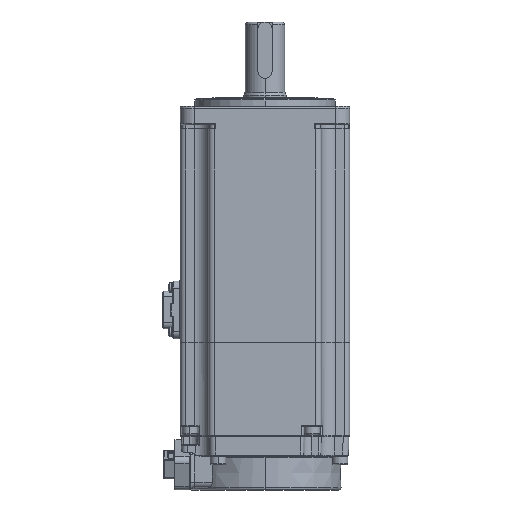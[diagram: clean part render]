
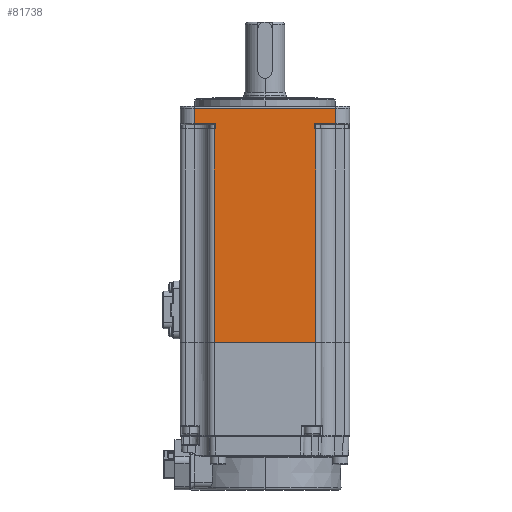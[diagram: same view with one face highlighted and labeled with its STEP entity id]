
A CAD part, left-side view. The second image highlights one B-rep face of the part: STEP entity #81738.
In plain terms, the highlighted planar face has unit normal (-1, 0, 0).
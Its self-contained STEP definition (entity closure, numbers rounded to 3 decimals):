
#1142 = CARTESIAN_POINT ( 'NONE',  ( -30.584, 7.954, 95.7 ) ) ;
#1400 = DIRECTION ( 'NONE',  ( 0., -1., 0. ) ) ;
#2169 = VERTEX_POINT ( 'NONE', #49941 ) ;
#2929 = EDGE_CURVE ( 'NONE', #98443, #3674, #89036, .T. ) ;
#3674 = VERTEX_POINT ( 'NONE', #64656 ) ;
#3845 = ORIENTED_EDGE ( 'NONE', *, *, #109252, .T. ) ;
#5654 = LINE ( 'NONE', #10840, #48199 ) ;
#7460 = VECTOR ( 'NONE', #57264, 1000. ) ;
#7525 = VECTOR ( 'NONE', #12990, 1000. ) ;
#8869 = VECTOR ( 'NONE', #70539, 1000. ) ;
#10840 = CARTESIAN_POINT ( 'NONE',  ( -30.584, -39.646, 93.7 ) ) ;
#12990 = DIRECTION ( 'NONE',  ( 0., 0., 1. ) ) ;
#15981 = DIRECTION ( 'NONE',  ( 0., 1., 0. ) ) ;
#17262 = DIRECTION ( 'NONE',  ( 0., 0., -1. ) ) ;
#17860 = ORIENTED_EDGE ( 'NONE', *, *, #114536, .T. ) ;
#20981 = CARTESIAN_POINT ( 'NONE',  ( -30.584, -27.646, 93.7 ) ) ;
#22256 = CARTESIAN_POINT ( 'NONE',  ( -30.584, -34.646, 95.7 ) ) ;
#24182 = EDGE_CURVE ( 'NONE', #47745, #62039, #102363, .T. ) ;
#26819 = CARTESIAN_POINT ( 'NONE',  ( -30.584, 15.554, 101.1 ) ) ;
#26831 = CARTESIAN_POINT ( 'NONE',  ( -30.584, 7.954, 93.7 ) ) ;
#27170 = VECTOR ( 'NONE', #15981, 1000. ) ;
#27712 = VERTEX_POINT ( 'NONE', #20981 ) ;
#28686 = EDGE_CURVE ( 'NONE', #32771, #93960, #79252, .T. ) ;
#29814 = VECTOR ( 'NONE', #85789, 1000. ) ;
#29826 = CARTESIAN_POINT ( 'NONE',  ( -30.584, -39.646, 17.9 ) ) ;
#31587 = LINE ( 'NONE', #29826, #7460 ) ;
#32771 = VERTEX_POINT ( 'NONE', #81469 ) ;
#33722 = ORIENTED_EDGE ( 'NONE', *, *, #24182, .T. ) ;
#36191 = EDGE_CURVE ( 'NONE', #27712, #63257, #5654, .T. ) ;
#36450 = ORIENTED_EDGE ( 'NONE', *, *, #58679, .T. ) ;
#39734 = VECTOR ( 'NONE', #56966, 1000. ) ;
#39767 = CARTESIAN_POINT ( 'NONE',  ( -30.584, 15.554, 95.7 ) ) ;
#41984 = EDGE_LOOP ( 'NONE', ( #94488, #17860, #93094, #74653, #115896, #36450, #63425, #71958, #59225, #3845, #33722, #84822 ) ) ;
#45851 = DIRECTION ( 'NONE',  ( 0., 0., 1. ) ) ;
#47745 = VERTEX_POINT ( 'NONE', #26831 ) ;
#47825 = CARTESIAN_POINT ( 'NONE',  ( -30.584, 7.954, 102.1 ) ) ;
#48199 = VECTOR ( 'NONE', #83485, 1000. ) ;
#49941 = CARTESIAN_POINT ( 'NONE',  ( -30.584, -27.046, 95.7 ) ) ;
#51578 = LINE ( 'NONE', #71642, #96991 ) ;
#54531 = CARTESIAN_POINT ( 'NONE',  ( -30.584, 8.554, 93.7 ) ) ;
#55121 = VECTOR ( 'NONE', #57679, 1000. ) ;
#55798 = LINE ( 'NONE', #67413, #7525 ) ;
#56966 = DIRECTION ( 'NONE',  ( 0., 0., -1. ) ) ;
#57264 = DIRECTION ( 'NONE',  ( 0., 1., 0. ) ) ;
#57595 = DIRECTION ( 'NONE',  ( 0., 1., 0. ) ) ;
#57679 = DIRECTION ( 'NONE',  ( 0., 1., 0. ) ) ;
#58679 = EDGE_CURVE ( 'NONE', #88901, #32771, #108576, .T. ) ;
#59225 = ORIENTED_EDGE ( 'NONE', *, *, #2929, .T. ) ;
#60515 = CARTESIAN_POINT ( 'NONE',  ( -30.584, -27.646, 17.9 ) ) ;
#60700 = CARTESIAN_POINT ( 'NONE',  ( -30.584, -27.046, 93.7 ) ) ;
#60865 = CARTESIAN_POINT ( 'NONE',  ( -30.584, -39.646, 93.7 ) ) ;
#61425 = CARTESIAN_POINT ( 'NONE',  ( -30.584, 8.554, 102.1 ) ) ;
#62039 = VERTEX_POINT ( 'NONE', #54531 ) ;
#63257 = VERTEX_POINT ( 'NONE', #60700 ) ;
#63425 = ORIENTED_EDGE ( 'NONE', *, *, #28686, .T. ) ;
#63891 = LINE ( 'NONE', #47825, #39734 ) ;
#64656 = CARTESIAN_POINT ( 'NONE',  ( -30.584, 7.954, 95.7 ) ) ;
#64842 = VECTOR ( 'NONE', #1400, 1000. ) ;
#66382 = CARTESIAN_POINT ( 'NONE',  ( -30.584, -39.646, 101.1 ) ) ;
#67413 = CARTESIAN_POINT ( 'NONE',  ( -30.584, -27.046, 102.1 ) ) ;
#70539 = DIRECTION ( 'NONE',  ( 0., 0., -1. ) ) ;
#71642 = CARTESIAN_POINT ( 'NONE',  ( -30.584, 15.554, 102.1 ) ) ;
#71958 = ORIENTED_EDGE ( 'NONE', *, *, #97433, .T. ) ;
#74653 = ORIENTED_EDGE ( 'NONE', *, *, #79462, .T. ) ;
#75000 = CARTESIAN_POINT ( 'NONE',  ( -30.584, -39.646, 102.1 ) ) ;
#78568 = FACE_OUTER_BOUND ( 'NONE', #41984, .T. ) ;
#79252 = LINE ( 'NONE', #66382, #55121 ) ;
#79462 = EDGE_CURVE ( 'NONE', #63257, #2169, #55798, .T. ) ;
#79653 = EDGE_CURVE ( 'NONE', #62039, #110989, #81292, .T. ) ;
#81292 = LINE ( 'NONE', #61425, #8869 ) ;
#81469 = CARTESIAN_POINT ( 'NONE',  ( -30.584, -34.646, 101.1 ) ) ;
#81738 = ADVANCED_FACE ( 'NONE', ( #78568 ), #84560, .F. ) ;
#82437 = CARTESIAN_POINT ( 'NONE',  ( -30.584, -34.646, 95.7 ) ) ;
#83485 = DIRECTION ( 'NONE',  ( 0., 1., 0. ) ) ;
#84544 = EDGE_CURVE ( 'NONE', #2169, #88901, #99393, .T. ) ;
#84560 = PLANE ( 'NONE',  #106628 ) ;
#84822 = ORIENTED_EDGE ( 'NONE', *, *, #79653, .T. ) ;
#85789 = DIRECTION ( 'NONE',  ( 0., -1., 0. ) ) ;
#87404 = VECTOR ( 'NONE', #45851, 1000. ) ;
#88901 = VERTEX_POINT ( 'NONE', #82437 ) ;
#89036 = LINE ( 'NONE', #1142, #64842 ) ;
#90227 = CARTESIAN_POINT ( 'NONE',  ( -30.584, -27.646, 102.1 ) ) ;
#91303 = LINE ( 'NONE', #90227, #112530 ) ;
#92829 = VERTEX_POINT ( 'NONE', #60515 ) ;
#93094 = ORIENTED_EDGE ( 'NONE', *, *, #36191, .T. ) ;
#93960 = VERTEX_POINT ( 'NONE', #26819 ) ;
#94488 = ORIENTED_EDGE ( 'NONE', *, *, #116096, .F. ) ;
#96991 = VECTOR ( 'NONE', #17262, 1000. ) ;
#97433 = EDGE_CURVE ( 'NONE', #93960, #98443, #51578, .T. ) ;
#98443 = VERTEX_POINT ( 'NONE', #39767 ) ;
#99310 = DIRECTION ( 'NONE',  ( 0., 0., 1. ) ) ;
#99393 = LINE ( 'NONE', #22256, #29814 ) ;
#100166 = CARTESIAN_POINT ( 'NONE',  ( -30.584, -34.646, 102.1 ) ) ;
#102363 = LINE ( 'NONE', #60865, #27170 ) ;
#106628 = AXIS2_PLACEMENT_3D ( 'NONE', #75000, #111843, #57595 ) ;
#108576 = LINE ( 'NONE', #100166, #87404 ) ;
#109252 = EDGE_CURVE ( 'NONE', #3674, #47745, #63891, .T. ) ;
#110989 = VERTEX_POINT ( 'NONE', #114643 ) ;
#111843 = DIRECTION ( 'NONE',  ( 1., 0., 0. ) ) ;
#112530 = VECTOR ( 'NONE', #99310, 1000. ) ;
#114536 = EDGE_CURVE ( 'NONE', #92829, #27712, #91303, .T. ) ;
#114643 = CARTESIAN_POINT ( 'NONE',  ( -30.584, 8.554, 17.9 ) ) ;
#115896 = ORIENTED_EDGE ( 'NONE', *, *, #84544, .T. ) ;
#116096 = EDGE_CURVE ( 'NONE', #92829, #110989, #31587, .T. ) ;
